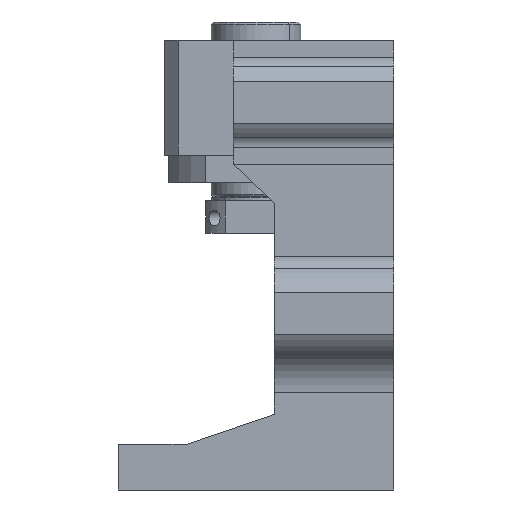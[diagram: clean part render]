
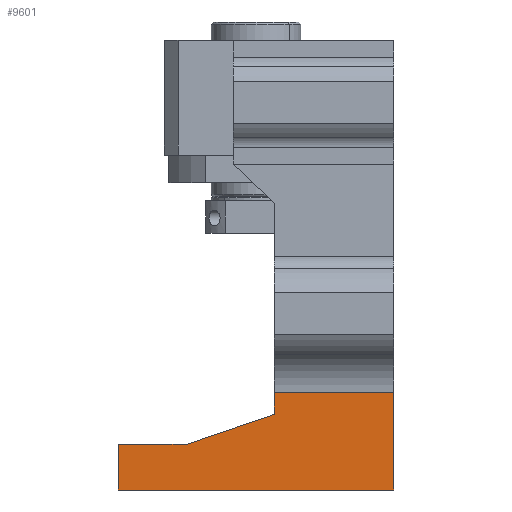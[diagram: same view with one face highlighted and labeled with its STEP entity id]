
A CAD part, left-side view. The second image highlights one B-rep face of the part: STEP entity #9601.
In plain terms, the highlighted planar face has unit normal (-1, 0, 0).
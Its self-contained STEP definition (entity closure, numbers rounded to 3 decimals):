
#68 = CARTESIAN_POINT ( 'NONE',  ( -32., -30., -82. ) ) ;
#138 = CARTESIAN_POINT ( 'NONE',  ( -32., 30., -82. ) ) ;
#419 = DIRECTION ( 'NONE',  ( 0., 1., 0. ) ) ;
#539 = VERTEX_POINT ( 'NONE', #4727 ) ;
#743 = LINE ( 'NONE', #13893, #8624 ) ;
#1213 = DIRECTION ( 'NONE',  ( 0., 0., -1. ) ) ;
#1263 = LINE ( 'NONE', #13389, #6301 ) ;
#1326 = EDGE_CURVE ( 'NONE', #3866, #12741, #13533, .T. ) ;
#1580 = VECTOR ( 'NONE', #1213, 1000. ) ;
#1929 = LINE ( 'NONE', #6837, #4446 ) ;
#1991 = AXIS2_PLACEMENT_3D ( 'NONE', #6158, #4037, #11543 ) ;
#2045 = CARTESIAN_POINT ( 'NONE',  ( -32., -30., -70.734 ) ) ;
#2457 = VECTOR ( 'NONE', #3459, 1000. ) ;
#2531 = CARTESIAN_POINT ( 'NONE',  ( -32., -4., -75.5 ) ) ;
#2532 = ORIENTED_EDGE ( 'NONE', *, *, #10015, .T. ) ;
#2804 = EDGE_CURVE ( 'NONE', #8241, #10977, #743, .T. ) ;
#2906 = CARTESIAN_POINT ( 'NONE',  ( -32., -30., -92. ) ) ;
#3114 = VERTEX_POINT ( 'NONE', #7009 ) ;
#3422 = ORIENTED_EDGE ( 'NONE', *, *, #8628, .F. ) ;
#3459 = DIRECTION ( 'NONE',  ( 0., 0., -1. ) ) ;
#3808 = LINE ( 'NONE', #6606, #9187 ) ;
#3830 = ORIENTED_EDGE ( 'NONE', *, *, #1326, .T. ) ;
#3866 = VERTEX_POINT ( 'NONE', #8331 ) ;
#3928 = VECTOR ( 'NONE', #6544, 1000. ) ;
#4037 = DIRECTION ( 'NONE',  ( 1., 0., 0. ) ) ;
#4446 = VECTOR ( 'NONE', #419, 1000. ) ;
#4727 = CARTESIAN_POINT ( 'NONE',  ( -32., 15., -82. ) ) ;
#5631 = VERTEX_POINT ( 'NONE', #2045 ) ;
#6158 = CARTESIAN_POINT ( 'NONE',  ( -32., -30., -82. ) ) ;
#6301 = VECTOR ( 'NONE', #6969, 1000. ) ;
#6544 = DIRECTION ( 'NONE',  ( 0., -1., 0. ) ) ;
#6547 = EDGE_CURVE ( 'NONE', #539, #12741, #3808, .T. ) ;
#6606 = CARTESIAN_POINT ( 'NONE',  ( -32., 15., -82. ) ) ;
#6837 = CARTESIAN_POINT ( 'NONE',  ( -32., -4., -70.734 ) ) ;
#6969 = DIRECTION ( 'NONE',  ( 0., 0., -1. ) ) ;
#7009 = CARTESIAN_POINT ( 'NONE',  ( -32., 30., -82. ) ) ;
#7119 = LINE ( 'NONE', #68, #3928 ) ;
#8241 = VERTEX_POINT ( 'NONE', #11770 ) ;
#8331 = CARTESIAN_POINT ( 'NONE',  ( -32., -4., -70.734 ) ) ;
#8412 = ORIENTED_EDGE ( 'NONE', *, *, #2804, .T. ) ;
#8554 = DIRECTION ( 'NONE',  ( 0., -0.946, 0.324 ) ) ;
#8624 = VECTOR ( 'NONE', #11731, 1000. ) ;
#8628 = EDGE_CURVE ( 'NONE', #5631, #10977, #1263, .T. ) ;
#8949 = FACE_OUTER_BOUND ( 'NONE', #10416, .T. ) ;
#9187 = VECTOR ( 'NONE', #8554, 1000. ) ;
#9384 = PLANE ( 'NONE',  #1991 ) ;
#9601 = ADVANCED_FACE ( 'NONE', ( #8949 ), #9384, .F. ) ;
#10015 = EDGE_CURVE ( 'NONE', #5631, #3866, #1929, .T. ) ;
#10117 = LINE ( 'NONE', #138, #1580 ) ;
#10222 = ORIENTED_EDGE ( 'NONE', *, *, #12958, .T. ) ;
#10416 = EDGE_LOOP ( 'NONE', ( #3422, #2532, #3830, #10682, #13144, #10222, #8412 ) ) ;
#10682 = ORIENTED_EDGE ( 'NONE', *, *, #6547, .F. ) ;
#10968 = CARTESIAN_POINT ( 'NONE',  ( -32., -4., -59. ) ) ;
#10977 = VERTEX_POINT ( 'NONE', #2906 ) ;
#11543 = DIRECTION ( 'NONE',  ( 0., 0., -1. ) ) ;
#11731 = DIRECTION ( 'NONE',  ( 0., -1., 0. ) ) ;
#11765 = EDGE_CURVE ( 'NONE', #3114, #539, #7119, .T. ) ;
#11770 = CARTESIAN_POINT ( 'NONE',  ( -32., 30., -92. ) ) ;
#12741 = VERTEX_POINT ( 'NONE', #2531 ) ;
#12958 = EDGE_CURVE ( 'NONE', #3114, #8241, #10117, .T. ) ;
#13144 = ORIENTED_EDGE ( 'NONE', *, *, #11765, .F. ) ;
#13389 = CARTESIAN_POINT ( 'NONE',  ( -32., -30., -82. ) ) ;
#13533 = LINE ( 'NONE', #10968, #2457 ) ;
#13893 = CARTESIAN_POINT ( 'NONE',  ( -32., -30., -92. ) ) ;
